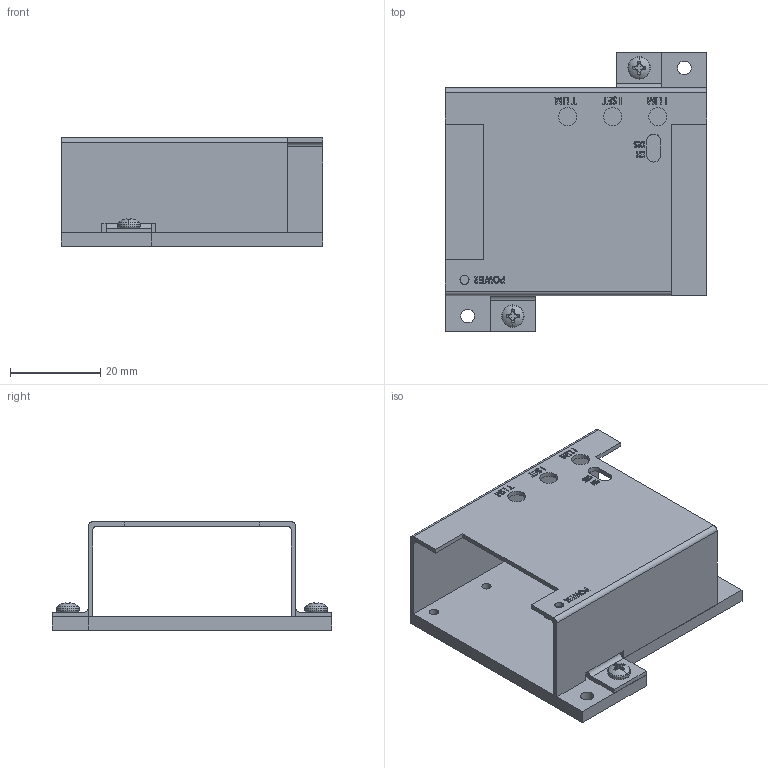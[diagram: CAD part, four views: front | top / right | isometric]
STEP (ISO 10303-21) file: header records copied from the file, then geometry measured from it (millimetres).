
FILE_DESCRIPTION (( 'STEP AP214' ), '1' );
FILE_NAME ('Laser Control Kit .STEP', '2024-11-21T21:02:39', ( '' ), ( '' ), 'SwSTEP 2.0', 'SolidWorks 2018', '' );
FILE_SCHEMA (( 'AUTOMOTIVE_DESIGN' ));
Length unit declared in the file: millimetre
Products named in the file (4): Laser Control Kit ; 90116A105_316 Stainless Steel Pan Head Phillips Screws_90116A105; laser driver cover; base1.2
Assembly tree (4 placements, depth 2):
  Laser Control Kit 
    base1.2
    laser driver cover
    90116A105_316 Stainless Steel Pan Head Phillips Screws_90116A105  x2
Bounding box: 58 x 62 x 24 mm (x, y, z)
Volume: 13284.8 mm3; surface area: 16114.7 mm2
Topology: 4 solids, 4 shells, 530 faces, 1470 edges, 976 vertices
Faces by surface type: plane 277, cylinder 136, bspline 89, cone 16, torus 8, sphere 4
Entity records: 18846 total; most frequent: CARTESIAN_POINT 7783, ORIENTED_EDGE 2468, DIRECTION 1835, EDGE_CURVE 1234, VECTOR 825, LINE 825, VERTEX_POINT 820, EDGE_LOOP 508
